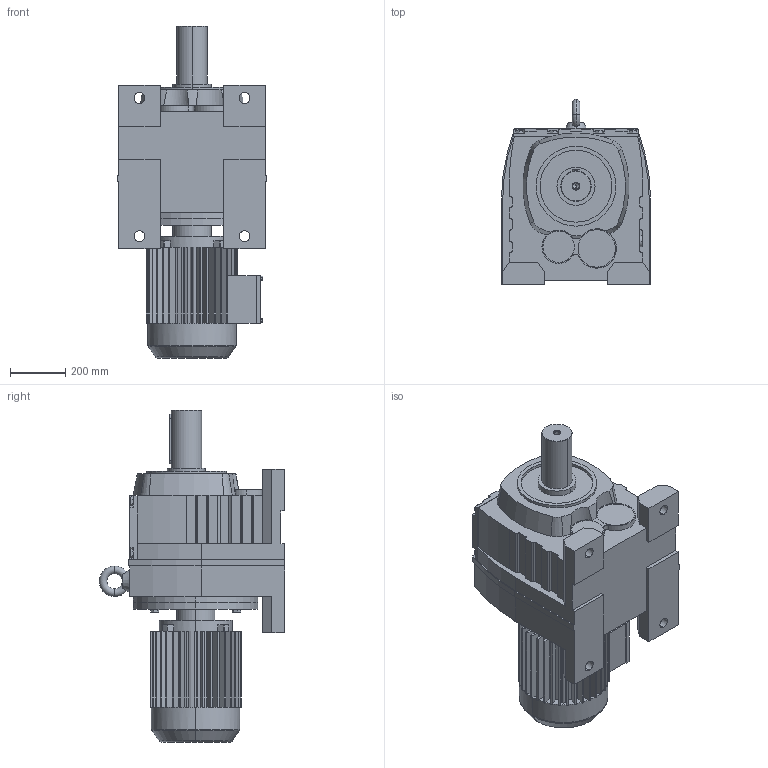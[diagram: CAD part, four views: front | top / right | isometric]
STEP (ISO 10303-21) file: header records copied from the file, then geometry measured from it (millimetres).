
FILE_DESCRIPTION(('Open CASCADE Model'),'2;1');
FILE_NAME('Open CASCADE Shape Model','2021-06-26T10:39:47',('Author'),( 'Open CASCADE'),'Open CASCADE STEP processor 6.3','Open CASCADE 6.3' ,'Unknown');
FILE_SCHEMA(('AUTOMOTIVE_DESIGN_CC2 { 1 2 10303 214 -1 1 5 4 }'));
Length unit declared in the file: millimetre
Products named in the file (3): 1_R147-Y160M; R37‵167_147.step; 萇儂_450_Y160M.step
Assembly tree (2 placements, depth 2):
  1_R147-Y160M
    R37‵167_147.step
    萇儂_450_Y160M.step
Bounding box: 540 x 670 x 1200 mm (x, y, z)
Volume: 158013209.5 mm3; surface area: 3429071 mm2
Topology: 2 solids, 2 shells, 742 faces, 1972 edges, 1275 vertices
Faces by surface type: plane 527, cylinder 185, cone 20, torus 10
Entity records: 51792 total; most frequent: CARTESIAN_POINT 14143, DIRECTION 6570, ORIENTED_EDGE 3940, PCURVE 3940, DEFINITIONAL_REPRESENTATION 3940, LINE 3679, VECTOR 3679, EDGE_CURVE 1970
